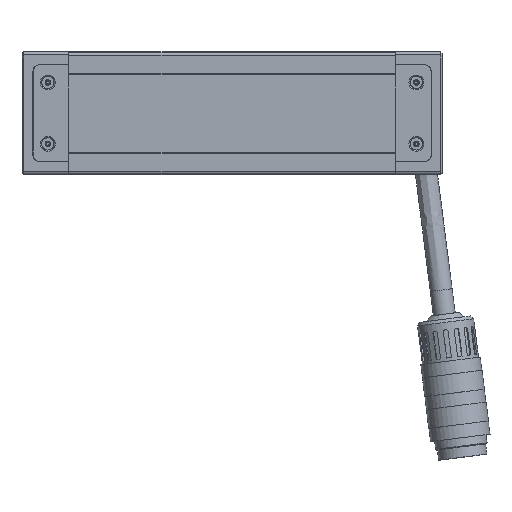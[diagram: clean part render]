
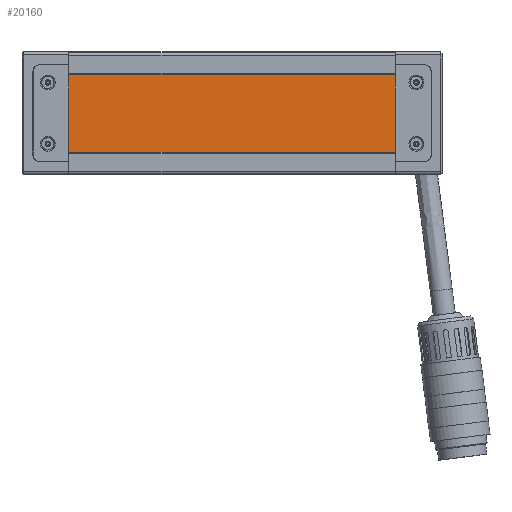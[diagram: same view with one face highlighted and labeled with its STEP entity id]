
A CAD part, top view. The second image highlights one B-rep face of the part: STEP entity #20160.
In plain terms, the highlighted planar face has unit normal (0, 0, 1).
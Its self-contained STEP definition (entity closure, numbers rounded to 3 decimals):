
#977=LINE('',#28644,#1979);
#982=LINE('',#28662,#1984);
#983=LINE('',#28664,#1985);
#984=LINE('',#28666,#1986);
#1979=VECTOR('',#23651,1000.);
#1984=VECTOR('',#23670,1000.);
#1985=VECTOR('',#23673,1000.);
#1986=VECTOR('',#23674,1000.);
#2709=PLANE('',#21290);
#4323=ORIENTED_EDGE('',*,*,#7874,.F.);
#4324=ORIENTED_EDGE('',*,*,#7864,.T.);
#4325=ORIENTED_EDGE('',*,*,#7873,.F.);
#4326=ORIENTED_EDGE('',*,*,#7875,.F.);
#7864=EDGE_CURVE('',#9720,#9719,#977,.T.);
#7873=EDGE_CURVE('',#9725,#9719,#982,.T.);
#7874=EDGE_CURVE('',#9720,#9726,#983,.T.);
#7875=EDGE_CURVE('',#9726,#9725,#984,.T.);
#9719=VERTEX_POINT('',#28643);
#9720=VERTEX_POINT('',#28645);
#9725=VERTEX_POINT('',#28661);
#9726=VERTEX_POINT('',#28665);
#11482=EDGE_LOOP('',(#4323,#4324,#4325,#4326));
#12575=FACE_BOUND('',#11482,.T.);
#20160=ADVANCED_FACE('',(#12575),#2709,.T.);
#21290=AXIS2_PLACEMENT_3D('',#28663,#23671,#23672);
#23651=DIRECTION('',(0.,-1.,0.));
#23670=DIRECTION('',(-1.,0.,0.));
#23671=DIRECTION('',(0.,0.,1.));
#23672=DIRECTION('',(0.,1.,0.));
#23673=DIRECTION('',(1.,0.,0.));
#23674=DIRECTION('',(0.,-1.,0.));
#28643=CARTESIAN_POINT('',(-0.498,-12.311,37.819));
#28644=CARTESIAN_POINT('',(-0.498,19.,37.819));
#28645=CARTESIAN_POINT('',(-0.498,12.31,37.819));
#28661=CARTESIAN_POINT('',(100.502,-12.311,37.819));
#28662=CARTESIAN_POINT('',(100.502,-12.311,37.819));
#28663=CARTESIAN_POINT('',(-100.498,19.,37.819));
#28664=CARTESIAN_POINT('',(-100.498,12.31,37.819));
#28665=CARTESIAN_POINT('',(100.502,12.31,37.819));
#28666=CARTESIAN_POINT('',(100.502,19.,37.819));
